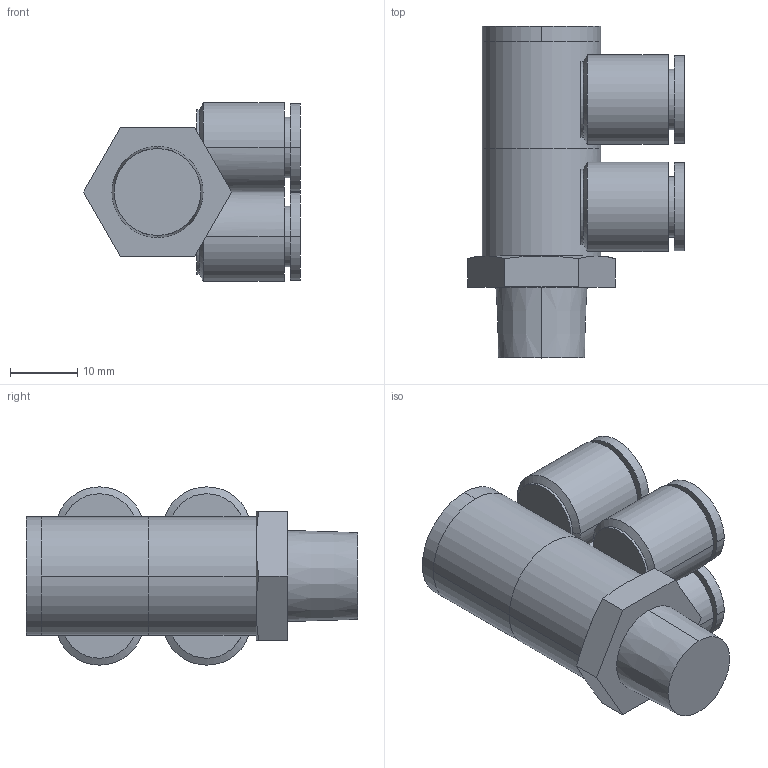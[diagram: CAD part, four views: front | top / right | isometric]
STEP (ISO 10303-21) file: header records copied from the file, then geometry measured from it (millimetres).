
FILE_DESCRIPTION (( 'STEP AP203' ), '1' );
FILE_NAME ('FZD08-02.STEP', '2020-05-11T14:48:09', ( '' ), ( '' ), 'SwSTEP 2.0', 'SolidWorks 2019', '' );
FILE_SCHEMA (( 'CONFIG_CONTROL_DESIGN' ));
Length unit declared in the file: millimetre
Products named in the file (1): FZD08-02
Bounding box: 32.17 x 49.2 x 26.45 mm (x, y, z)
Volume: 15924.8 mm3; surface area: 11340.3 mm2
Topology: 3 solids, 3 shells, 113 faces, 250 edges, 158 vertices
Faces by surface type: cylinder 60, plane 33, cone 20
Entity records: 3875 total; most frequent: CARTESIAN_POINT 1266, DIRECTION 556, ORIENTED_EDGE 500, EDGE_CURVE 250, AXIS2_PLACEMENT_3D 236, VERTEX_POINT 158, EDGE_LOOP 132, CIRCLE 122
